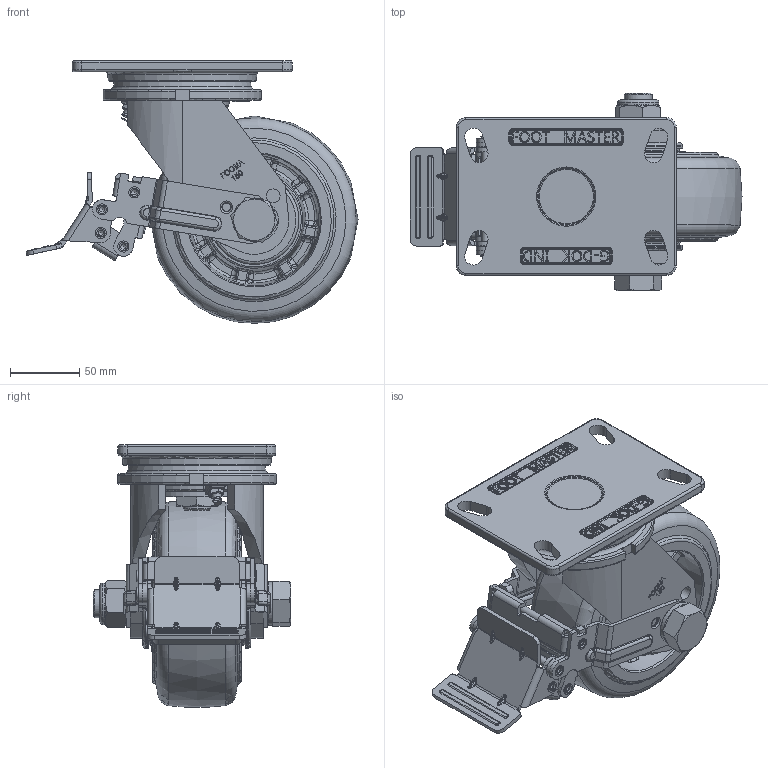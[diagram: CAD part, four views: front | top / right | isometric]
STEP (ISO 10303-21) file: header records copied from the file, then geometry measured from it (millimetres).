
FILE_DESCRIPTION(/* description */ (''),/* implementation_level */ '2;1');
FILE_NAME(/* name */ '\\192.168.10.38\지덕공유\1.기술연구소\손동원\GF-SERIES\3D\GF-150-BSF-MUD-FRN.stp',/* time_stamp */ '2023-07-25T14:01:35+09:00',/* author */ ('admin'),/* organization */ (''),/* preprocessor_version */ 'ST-DEVELOPER v18.1',/* originating_system */ 'Autodesk Inventor 2021',/* authorisation */ '');
FILE_SCHEMA (('AUTOMOTIVE_DESIGN { 1 0 10303 214 3 1 1 }'));
Products named in the file (1): GF-150-BSF-MUD-FRN
Bounding box: 239.93 x 143 x 189.84 mm (x, y, z)
Volume: 1554628.2 mm3; surface area: 239328.6 mm2
Topology: 7 solids, 7 shells, 2461 faces, 6461 edges, 3992 vertices
Faces by surface type: bspline 838, plane 760, cylinder 604, torus 178, cone 65, sphere 16
Full cylindrical faces by diameter (mm): 4 x4, 6 x5, 6.2 x18, 7 x2, 8 x8, 9.7 x2, 10 x4, 20 x4, 20.2 x4, 24.9 x2, 30 x1, 34 x2, 43 x2, 59 x1, 64.519 x2
Entity records: 117201 total; most frequent: CARTESIAN_POINT 61135, ORIENTED_EDGE 12770, DIRECTION 10138, EDGE_CURVE 6385, VERTEX_POINT 4001, AXIS2_PLACEMENT_3D 3705, LINE 2728, VECTOR 2728
